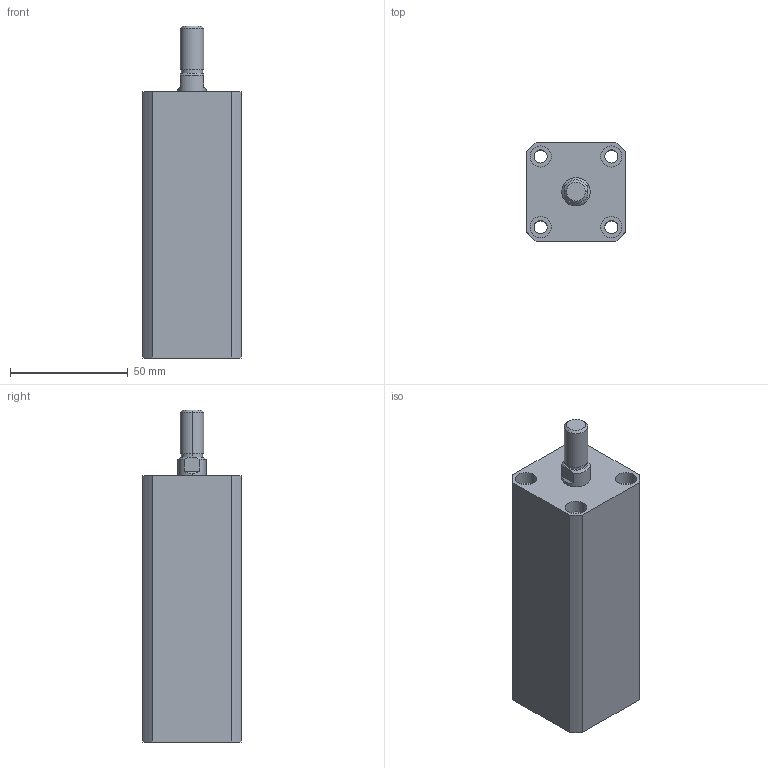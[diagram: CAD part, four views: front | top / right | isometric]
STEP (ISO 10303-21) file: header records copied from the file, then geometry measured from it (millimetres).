
FILE_DESCRIPTION (( 'STEP AP203' ), '1' );
FILE_NAME ('HTB-SDMB20-70W.STEP', '2019-10-09T00:09:01', ( '微软用户' ), ( '微软中国' ), 'SwSTEP 2.0', 'SolidWorks 2012', '' );
FILE_SCHEMA (( 'CONFIG_CONTROL_DESIGN' ));
Length unit declared in the file: millimetre
Products named in the file (3): HTB-SDMB20-70W; HTB-SDMB20-70W活塞杆; HTB-SDMB20-70掛极
Assembly tree (2 placements, depth 2):
  HTB-SDMB20-70W
    HTB-SDMB20-70掛极
    HTB-SDMB20-70W活塞杆
Bounding box: 42 x 42 x 141 mm (x, y, z)
Volume: 171107.7 mm3; surface area: 42151.8 mm2
Topology: 2 solids, 2 shells, 140 faces, 332 edges, 218 vertices
Faces by surface type: plane 66, cylinder 48, bspline 16, torus 6, cone 4
Entity records: 5129 total; most frequent: CARTESIAN_POINT 1587, ORIENTED_EDGE 664, DIRECTION 662, EDGE_CURVE 332, AXIS2_PLACEMENT_3D 241, VERTEX_POINT 218, VECTOR 180, LINE 180
